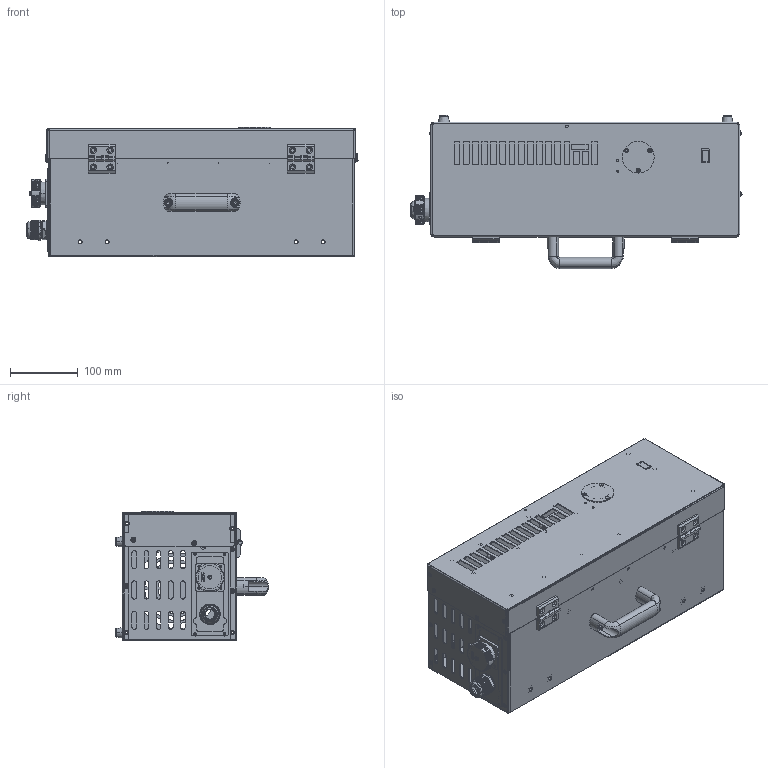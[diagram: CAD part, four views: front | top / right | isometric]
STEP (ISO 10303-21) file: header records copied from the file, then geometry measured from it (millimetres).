
FILE_DESCRIPTION (( 'STEP AP214' ), '1' );
FILE_NAME ('CS620 CS625 CS520-ERB1C4K0MNE_V2.0(4kw直流OEM无 内置电源控制柜).STEP', '2025-07-24T09:12:11', ( '' ), ( '' ), 'SwSTEP 2.0', 'SolidWorks 2020', '' );
FILE_SCHEMA (( 'AUTOMOTIVE_DESIGN' ));
Length unit declared in the file: millimetre
Products named in the file (18): ____.STEP; 226-1A.STEP; XG02-067-3; NA20600056_ERB1C4K0MNE蟀諉ん假蚾鍼踢; CS620 CS625 CS520-ERB1C4K0MNE_V2.0(4kw直流OEM无 内置电源控制柜); GBT70．1-2000内六角圆柱头螺钉M3×8; NA20200197_瑤脣釱-CS620蚳蚚-WY32K8Z; GB_T70.1-2008 M6x16; OEM眊极-C-藷; XG02-067-3.STEP; OEM眊极-C-眊极; NHY11-16; NA60401322_OEM眊极-C; XAG61-L100; 囀鞠褒す埴芛蹟隊 GB _T 70.2 - 2015   M4X8; NA20200200_跡擘芛-GLS-B-M20-14; NA60200446_假蚾鍼踢裔啣
Assembly tree (31 placements, depth 5):
  CS620 CS625 CS520-ERB1C4K0MNE_V2.0(4kw直流OEM无 内置电源控制柜)
    NA60401322_OEM眊极-C
      OEM眊极-C-眊极
      OEM眊极-C-藷
      XAG61-L100
      NHY11-16  x4
      GBT70．1-2000内六角圆柱头螺钉M3×8  x4
      GB_T70.1-2008 M6x16  x2
      囀鞠褒す埴芛蹟隊 GB _T 70.2 - 2015   M4X8  x4
      XG02-067-3.STEP
        226-1A.STEP  x2
        ____.STEP
      XG02-067-3
        XG02-067-3.STEP
          226-1A.STEP  x2
          ____.STEP
    NA20600056_ERB1C4K0MNE蟀諉ん假蚾鍼踢
    NA60200446_假蚾鍼踢裔啣
    NA20200197_瑤脣釱-CS620蚳蚚-WY32K8Z
    NA20200200_跡擘芛-GLS-B-M20-14
Bounding box: 491.88 x 226.94 x 191.5 mm (x, y, z)
Volume: 707308.9 mm3; surface area: 859117.9 mm2
Topology: 32 solids, 32 shells, 4175 faces, 11161 edges, 7123 vertices
Faces by surface type: plane 1849, cylinder 1484, cone 427, bspline 247, sphere 90, torus 78
Entity records: 146834 total; most frequent: CARTESIAN_POINT 41856, ORIENTED_EDGE 19204, DIRECTION 17195, EDGE_CURVE 9602, AXIS2_PLACEMENT_3D 6247, VERTEX_POINT 6185, VECTOR 4701, LINE 4701
